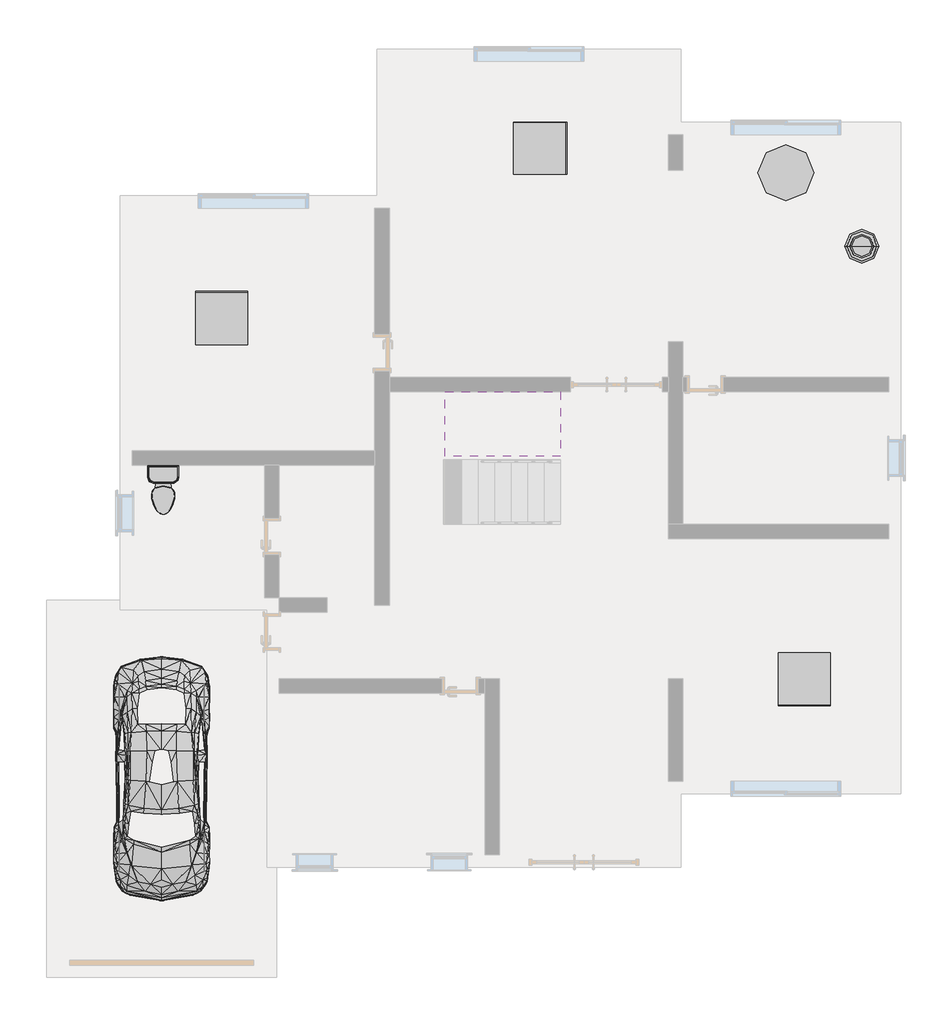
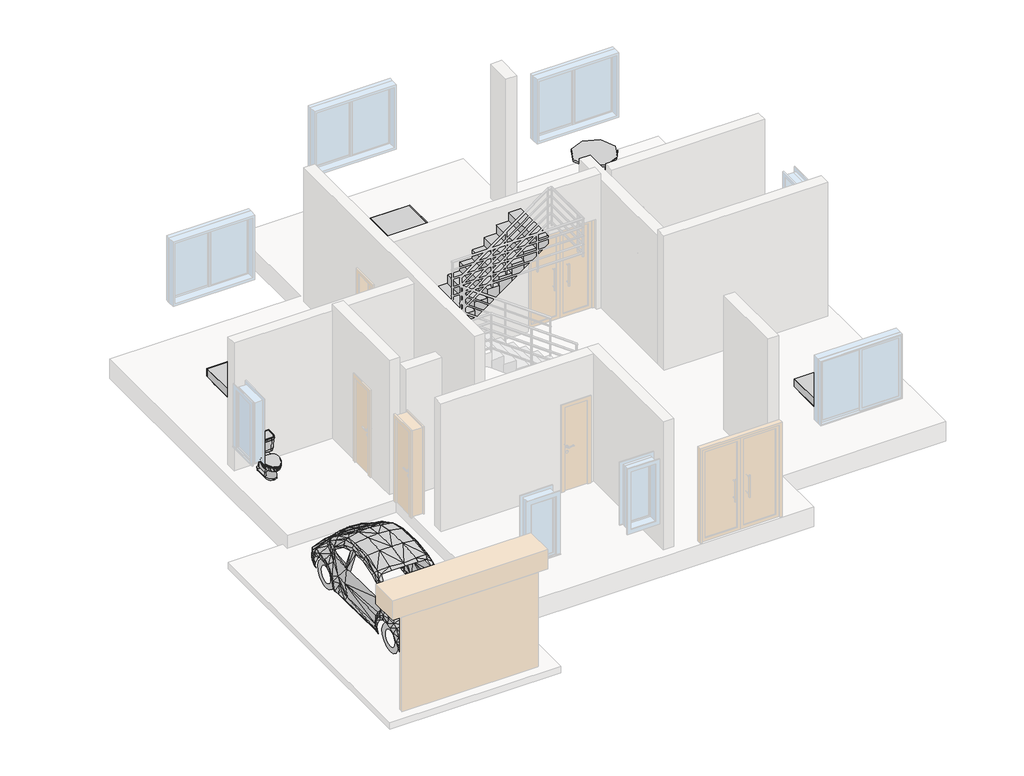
# One storey, part 3 of 3: 4 furniture elements, 1 flow terminal, 1 geographic element, 1 proxy, 1 stair flight.
"""IFC4 building model written with IfcOpenShell, lengths in millimetres."""

from ifc_helpers import new_model, si_unit, origin, place, context, project, spatial, faceted_brep, transform, mapped, element, save
from components import entourage_b6d71803, flow_terminal_5cb52bd4, flow_terminal_183bbd19, furniture_3a30bd0c, furniture_5defa876, geographic_element_97671add

model = new_model("IFC4")

# Units and contexts
model_context = context("Model", 3, world=origin())
ifc_project = project(units=[si_unit("LENGTHUNIT", "METRE", prefix="MILLI")], contexts=[model_context])

# Site, building, storey
site = spatial("IfcSite", under=ifc_project)
building = spatial("IfcBuilding", under=site)
storey = spatial("IfcBuildingStorey", under=building, Name="标高 1", Elevation=0.0)

# Proxy
placement = place(None, origin())
entourage_shape = entourage_b6d71803(model_context)
element("IfcBuildingElementProxy", 1, Name="RPC 甲虫 : RPC 甲虫", ObjectType="RPC 甲虫 : RPC 甲虫", at=placement, inside=storey, context=model_context, shape_type="MappedRepresentation", body=[
    mapped(entourage_shape, transform((-48057.1400177, -23107.7106127, -300.0), x_axis=(-1.0000000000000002, 0.0, 0.0), y_axis=(0.0, -1.0000000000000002, 0.0), z_axis=(0.0, 0.0, 1.0))),
])

# Flow terminal
flow_terminal_shape = flow_terminal_5cb52bd4(model_context)
flow_terminal_2_shape = flow_terminal_183bbd19(model_context)
element("IfcFlowTerminal", 2, ObjectType="分体座便器 : 标准", at=placement, inside=storey, context=model_context, shape_type="MappedRepresentation", body=[
    mapped(flow_terminal_shape, transform((-48030.536045, -19722.4066401, 0.0), x_axis=(1.0, 0.0, 0.0), y_axis=(0.0, 1.0, 0.0), z_axis=(0.0, 0.0, 1.0))),
    mapped(flow_terminal_2_shape, transform((-48030.536045, -19722.4066401, 0.0), x_axis=(1.0, 0.0, 0.0), y_axis=(0.0, 1.0, 0.0), z_axis=(0.0, 0.0, 1.0))),
])

# Furniture
furniture_shape = furniture_3a30bd0c(model_context)
element("IfcFurniture", 3, ObjectType="茶几 - 方形 : W850*D850*H300", at=placement, inside=storey, context=model_context, shape_type="MappedRepresentation", body=[
    mapped(furniture_shape, transform((-37557.1400177, -22707.7106127, 0.0), x_axis=(1.0, 0.0, 0.0), y_axis=(0.0, 1.0, 0.0), z_axis=(0.0, 0.0, 1.0))),
])
element("IfcFurniture", 4, ObjectType="茶几 - 方形 : W850*D850*H300", at=placement, inside=storey, context=model_context, shape_type="MappedRepresentation", body=[
    mapped(furniture_shape, transform((-41885.0985554, -14049.8068617, 0.0), x_axis=(0.0, 1.000000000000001, 0.0), y_axis=(-1.000000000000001, 0.0, 0.0), z_axis=(0.0, 0.0, 1.0))),
])
element("IfcFurniture", 5, ObjectType="茶几 - 方形 : W850*D850*H300", at=placement, inside=storey, context=model_context, shape_type="MappedRepresentation", body=[
    mapped(furniture_shape, transform((-47077.3198835, -16833.8872434, 0.0), x_axis=(-1.000000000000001, 0.0, 0.0), y_axis=(0.0, -1.000000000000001, 0.0), z_axis=(0.0, 0.0, 1.0))),
])
furniture_2_shape = furniture_5defa876(model_context)
element("IfcFurniture", 6, ObjectType="餐桌 - 圆形 : 0915mm 直径", at=placement, inside=storey, context=model_context, shape_type="MappedRepresentation", body=[
    mapped(furniture_2_shape, transform((-37960.8219849, -14262.8319242, 0.0), x_axis=(1.0, 0.0, 0.0), y_axis=(0.0, 1.0, 0.0), z_axis=(0.0, 0.0, 1.0))),
])

# Geographic element
geographic_element_shape = geographic_element_97671add(model_context)
element("IfcGeographicElement", 7, ObjectType="盆栽7 3D : 苏铁", at=placement, inside=storey, context=model_context, shape_type="MappedRepresentation", body=[
    mapped(geographic_element_shape, transform((-36617.1400177, -15647.7106127, 0.0), x_axis=(1.0, 0.0, 0.0), y_axis=(0.0, 1.0, 0.0), z_axis=(0.0, 0.0, 1.0))),
])

# Stair flight
element("IfcStairFlight", 8, ObjectType="150mm 结构深度", at=placement, inside=storey, context=model_context, shape_type="Brep", body=[
    faceted_brep([(-43157.1400177, -18027.7106127, 1757.8125), (-43427.1400177, -18027.7106127, 1757.8125), (-43427.1400177, -19077.7106127, 1757.8125), (-43157.1400177, -19077.7106127, 1757.8125), (-43157.1400177, -18027.7106127, 1572.6807712), (-43427.1400177, -18027.7106127, 1377.3682712), (-43427.1400177, -18027.7106127, 1562.5), (-43427.1400177, -19077.7106127, 1377.3682712), (-43157.1400177, -19077.7106127, 1572.6807712), (-42887.1400177, -18027.7106127, 1953.125), (-43157.1400177, -18027.7106127, 1953.125), (-43157.1400177, -19077.7106127, 1953.125), (-42887.1400177, -19077.7106127, 1953.125), (-42887.1400177, -18027.7106127, 1767.9932712), (-42887.1400177, -19077.7106127, 1767.9932712), (-42617.1400177, -18027.7106127, 2148.4375), (-42887.1400177, -18027.7106127, 2148.4375), (-42887.1400177, -19077.7106127, 2148.4375), (-42617.1400177, -19077.7106127, 2148.4375), (-42617.1400177, -18027.7106127, 1963.3057712), (-42617.1400177, -19077.7106127, 1963.3057712), (-42347.1400177, -18027.7106127, 2343.75), (-42617.1400177, -18027.7106127, 2343.75), (-42617.1400177, -19077.7106127, 2343.75), (-42347.1400177, -19077.7106127, 2343.75), (-42347.1400177, -18027.7106127, 2158.6182712), (-42347.1400177, -19077.7106127, 2158.6182712), (-42077.1400177, -18027.7106127, 2539.0625), (-42347.1400177, -18027.7106127, 2539.0625), (-42347.1400177, -19077.7106127, 2539.0625), (-42077.1400177, -19077.7106127, 2539.0625), (-42077.1400177, -18027.7106127, 2353.9307712), (-42077.1400177, -19077.7106127, 2353.9307712), (-41807.1400177, -18027.7106127, 2734.375), (-42077.1400177, -18027.7106127, 2734.375), (-42077.1400177, -19077.7106127, 2734.375), (-41807.1400177, -19077.7106127, 2734.375), (-41807.1400177, -18027.7106127, 2549.2432712), (-41807.1400177, -19077.7106127, 2549.2432712), (-41537.1400177, -18027.7106127, 2929.6875), (-41807.1400177, -18027.7106127, 2929.6875), (-41807.1400177, -19077.7106127, 2929.6875), (-41537.1400177, -19077.7106127, 2929.6875), (-41537.1400177, -18027.7106127, 2744.5557712), (-41537.1400177, -19077.7106127, 2744.5557712)], [[[0, 1, 2, 3]], [[1, 0, 4, 5, 6]], [[2, 1, 6, 5, 7]], [[3, 2, 7, 8]], [[9, 10, 11, 12]], [[10, 9, 13, 4, 0]], [[11, 10, 0, 3]], [[12, 11, 3, 8, 14]], [[15, 16, 17, 18]], [[16, 15, 19, 13, 9]], [[17, 16, 9, 12]], [[18, 17, 12, 14, 20]], [[21, 22, 23, 24]], [[22, 21, 25, 19, 15]], [[23, 22, 15, 18]], [[24, 23, 18, 20, 26]], [[27, 28, 29, 30]], [[28, 27, 31, 25, 21]], [[29, 28, 21, 24]], [[30, 29, 24, 26, 32]], [[33, 34, 35, 36]], [[34, 33, 37, 31, 27]], [[35, 34, 27, 30]], [[36, 35, 30, 32, 38]], [[39, 40, 41, 42]], [[40, 39, 43, 37, 33]], [[41, 40, 33, 36]], [[42, 41, 36, 38, 44]], [[39, 42, 44, 43]], [[5, 4, 13, 19, 25, 31, 37, 43, 44, 38, 32, 26, 20, 14, 8, 7]]]),
])

save(model, "model.ifc")
